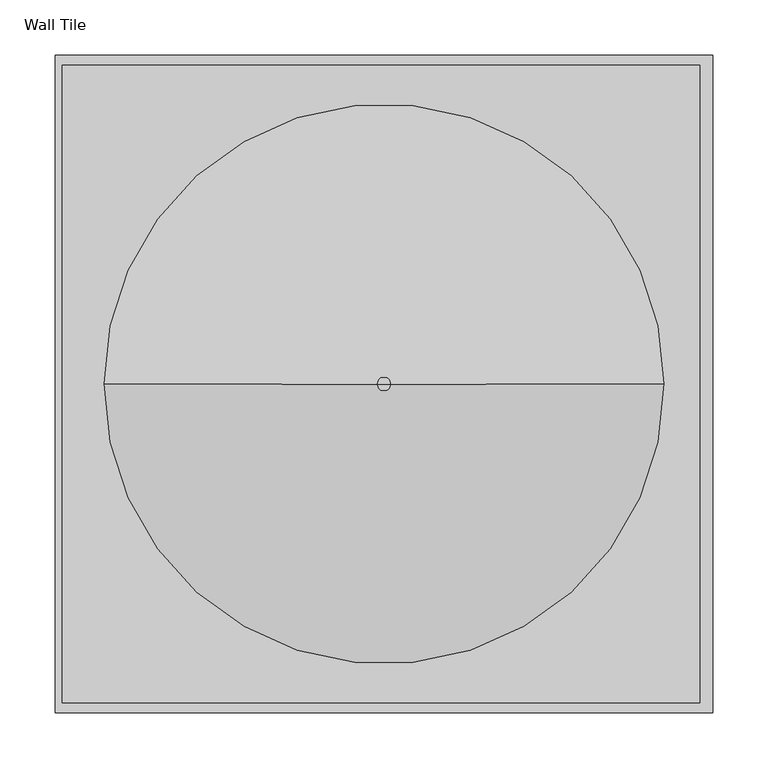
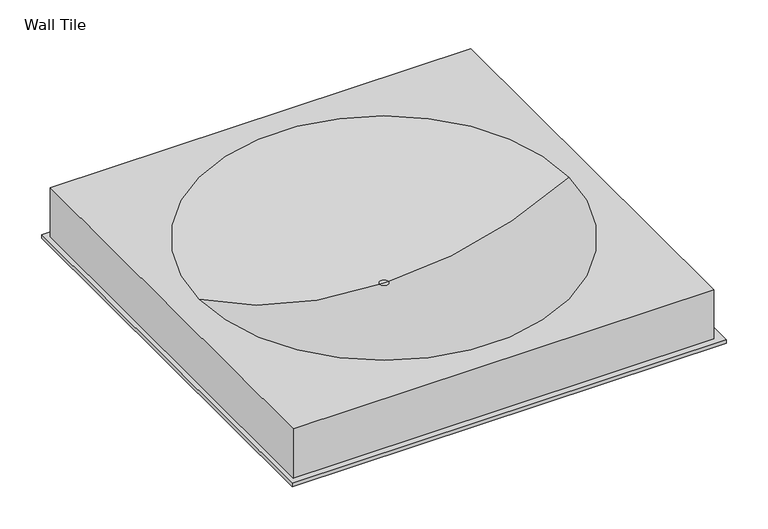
"""IFC4 building model written with IfcOpenShell, lengths in millimetres: proxy geometry, Ceiling_Tile-Qwel-Deep_Dish : Wall Tile."""

from ifc_helpers import new_model, si_unit, point, frame, origin, origin_with_axes, place, context, project, spatial, polyline, circle_curve, ellipse_curve, trimmed, outline, extrude, source, transform, mapped, element, save
from ifc_brep_helpers import plane_surface, revolved_surface, advanced_brep


def wall_tile_e09e1949(model_context):
    return source(origin(), model_context, "Body", "SolidModel", [
        advanced_brep(
        [(286.512, -289.2298, 76.43749), (286.512, 289.3822, 76.43749), (-292.1, 289.3822, 76.43749), (-292.1, -289.2298, 76.43749), (-254.0, 0.0, 76.43749), (254.0, 0.0, 76.43749), (286.512, -289.2298, 4.99999), (-292.1, -289.2298, 4.99999), (-292.1, 289.3822, 4.99999), (286.512, 289.3822, 4.99999), (6.35, 0.0, 11.2812882), (-6.35, 0.0, 11.2812882), (0.0, 0.0, 11.2812882)],
        [
            (0, 1),
            (1, 2),
            (2, 3),
            (3, 0),
            (4, 5, circle_curve(frame((0.0, 0.0, 76.43749), z_axis=(0.0, 0.0, -1.0), x_axis=(-1.0, 0.0, 0.0)), 254.0)),
            (5, 4, circle_curve(frame((0.0, 0.0, 76.43749), z_axis=(0.0, 0.0, -1.0), x_axis=(-1.0, 0.0, 0.0)), 254.0)),
            (6, 7),
            (7, 8),
            (8, 9),
            (9, 6),
            (3, 7),
            (6, 0),
            (2, 8),
            (1, 9),
            (10, 5, circle_curve(frame((6.35, 0.0, 514.5016366), z_axis=(0.0, -1.0, 0.0), x_axis=(-1.0, 0.0, 0.0)), 503.2203484)),
            (4, 11, circle_curve(frame((-6.35, 0.0, 514.5016366), z_axis=(0.0, -1.0, 0.0), x_axis=(1.0, 0.0, 0.0)), 503.2203484)),
            (11, 10, circle_curve(frame((0.0, 0.0, 11.2812882), z_axis=(0.0, 0.0, -1.0), x_axis=(-1.0, 0.0, 0.0)), 6.35)),
            (10, 11, circle_curve(frame((0.0, 0.0, 11.2812882), z_axis=(0.0, 0.0, -1.0), x_axis=(-1.0, 0.0, 0.0)), 6.35)),
            (11, 12),
            (12, 10),
        ],
        [
            plane_surface(frame((286.512, -289.2298, 76.43749), z_axis=(0.0, 0.0, 1.0), x_axis=(0.0, 1.0, 0.0))),
            plane_surface(frame((286.512, -289.2298, 4.99999), z_axis=(0.0, 0.0, -1.0), x_axis=(0.0, -1.0, 0.0))),
            plane_surface(frame((-292.1, -289.2298, 76.43749), z_axis=(0.0, -1.0, 0.0), x_axis=(0.0, 0.0, -1.0))),
            plane_surface(frame((-292.1, 289.3822, 76.43749), z_axis=(-1.0, 0.0, 0.0), x_axis=(0.0, 0.0, -1.0))),
            plane_surface(frame((286.512, 289.3822, 76.43749), z_axis=(0.0, 1.0, 0.0), x_axis=(0.0, 0.0, -1.0))),
            plane_surface(frame((286.512, -289.2298, 76.43749), z_axis=(1.0, 0.0, 0.0), x_axis=(0.0, 0.0, -1.0))),
            revolved_surface(trimmed(ellipse_curve(frame((-6.35, 0.0, 514.5016366), z_axis=(0.0, 1.0, 0.0), x_axis=(1.0, 0.0, 0.0)), 503.2203484, 503.2203484), [point((-6.35, 0.0, 11.2812882))], [point((-254.0, 0.0, 76.43749))], True, "CARTESIAN"), (0.0, 0.0, 114.53749), (0.0, 0.0, -1.0)),
            plane_surface(frame((0.0, 0.0, 11.2812882), z_axis=(0.0, 0.0, 1.0), x_axis=(-1.0, 0.0, 0.0))),
        ],
        [
            (0, [[1, 2, 3, 4], [5, 6]]),
            (1, [[7, 8, 9, 10]]),
            (2, [[-4, 11, -7, 12]]),
            (3, [[-3, 13, -8, -11]]),
            (4, [[-2, 14, -9, -13]]),
            (5, [[-1, -12, -10, -14]]),
            (6, [[15, -5, 16, 17]]),
            (6, [[-15, 18, -16, -6]]),
            (7, [[-17, 19, 20]]),
            (7, [[-18, -20, -19]]),
        ],
    ),
        extrude(outline(polyline([(298.45, 298.45), (298.45, -298.45), (-298.45, -298.45), (-298.45, 298.45), (298.45, 298.45)])), origin_with_axes(), (0.0, 0.0, 1.0), 4.99999),
    ])


if __name__ == "__main__":
    model = new_model("IFC4")
    model_context = context("Model", 3, world=origin())
    ifc_project = project(units=[si_unit("LENGTHUNIT", "METRE", prefix="MILLI")], contexts=[model_context])
    site = spatial("IfcSite", under=ifc_project)
    building = spatial("IfcBuilding", under=site)
    placement = place(None, origin())
    wall_tile_shape = wall_tile_e09e1949(model_context)
    element("IfcBuildingElementProxy", 1, Name="Ceiling_Tile-Qwel-Deep_Dish : Wall Tile", ObjectType="Ceiling_Tile-Qwel-Deep_Dish : Wall Tile", at=placement, inside=building, context=model_context, shape_type="MappedRepresentation", body=[
        mapped(wall_tile_shape, transform((0.0, 0.0, 0.0), x_axis=(1.0, 0.0, 0.0), y_axis=(0.0, 1.0, 0.0), z_axis=(0.0, 0.0, 1.0))),
    ])
    save(model, "model.ifc")
